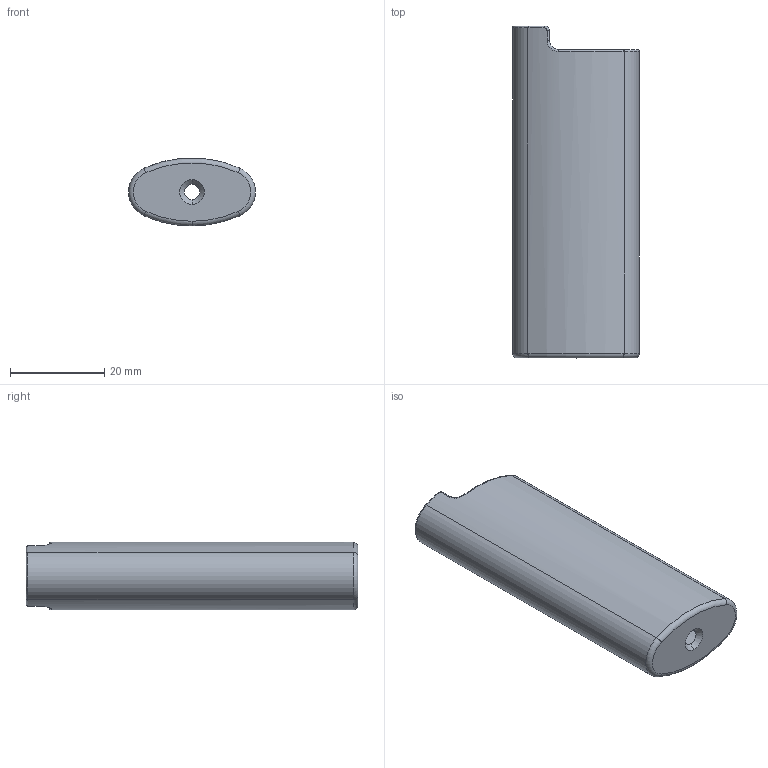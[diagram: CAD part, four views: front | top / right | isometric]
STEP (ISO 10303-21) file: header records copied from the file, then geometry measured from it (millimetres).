
FILE_DESCRIPTION (( 'STEP AP214' ), '1' );
FILE_NAME ('BIC cover empty.STEP', '2021-03-28T11:03:36', ( '' ), ( '' ), 'SwSTEP 2.0', 'SolidWorks 2020', '' );
FILE_SCHEMA (( 'AUTOMOTIVE_DESIGN' ));
Length unit declared in the file: millimetre
Products named in the file (1): BIC cover empty
Bounding box: 26.9 x 70.4 x 14.4 mm (x, y, z)
Volume: 3708.4 mm3; surface area: 9325.4 mm2
Topology: 3 solids, 3 shells, 52 faces, 111 edges, 65 vertices
Faces by surface type: torus 19, cylinder 15, bspline 8, plane 6, cone 4
Entity records: 1865 total; most frequent: CARTESIAN_POINT 683, DIRECTION 263, ORIENTED_EDGE 222, AXIS2_PLACEMENT_3D 121, EDGE_CURVE 111, CIRCLE 76, VERTEX_POINT 65, EDGE_LOOP 54
